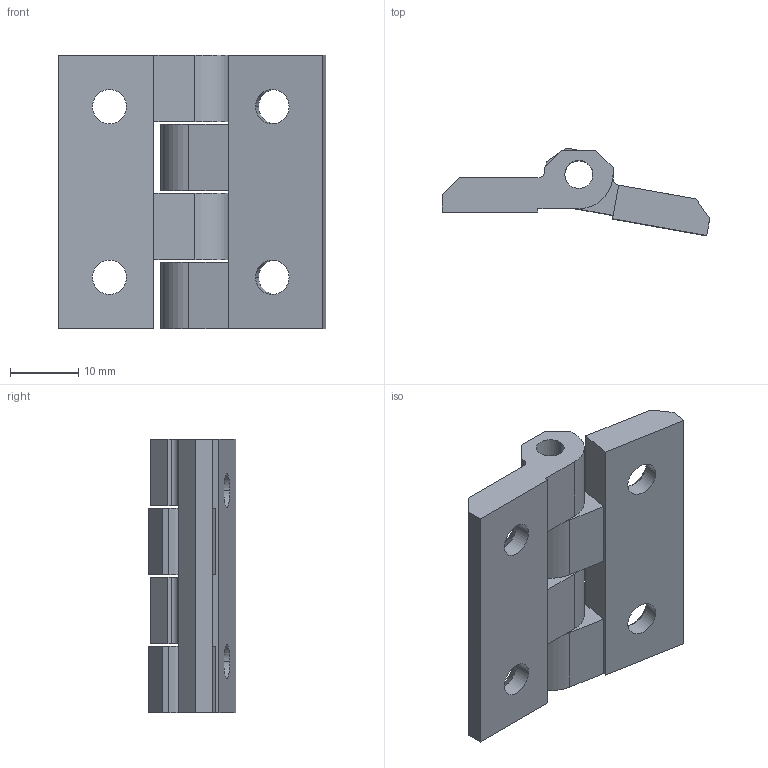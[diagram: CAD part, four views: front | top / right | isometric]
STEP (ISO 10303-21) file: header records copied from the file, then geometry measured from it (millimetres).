
FILE_DESCRIPTION (( 'STEP AP214' ), '1' );
FILE_NAME ('3A.ZN60.00.00.00.STEP', '2010-02-09T13:28:35', ( 'Rak' ), ( 'ROZTOCZE' ), 'SwSTEP 2.0', 'SolidWorks 2004231', '' );
FILE_SCHEMA (( 'AUTOMOTIVE_DESIGN' ));
Length unit declared in the file: millimetre
Products named in the file (2): 3A.ZN60.00.00.00; 3A.ZN60.00.00_Domyœlna
Assembly tree (2 placements, depth 2):
  3A.ZN60.00.00.00
    3A.ZN60.00.00_Domyœlna  x2
Bounding box: 39.16 x 12.82 x 40 mm (x, y, z)
Volume: 7233 mm3; surface area: 5268.5 mm2
Topology: 2 solids, 2 shells, 76 faces, 218 edges, 142 vertices
Faces by surface type: plane 44, cylinder 24, cone 8
Entity records: 1326 total; most frequent: DIRECTION 229, CARTESIAN_POINT 223, ORIENTED_EDGE 218, EDGE_CURVE 109, AXIS2_PLACEMENT_3D 77, VECTOR 75, LINE 75, VERTEX_POINT 71
